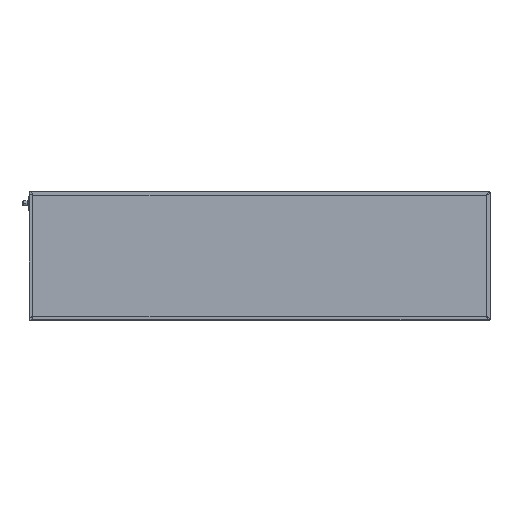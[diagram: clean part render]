
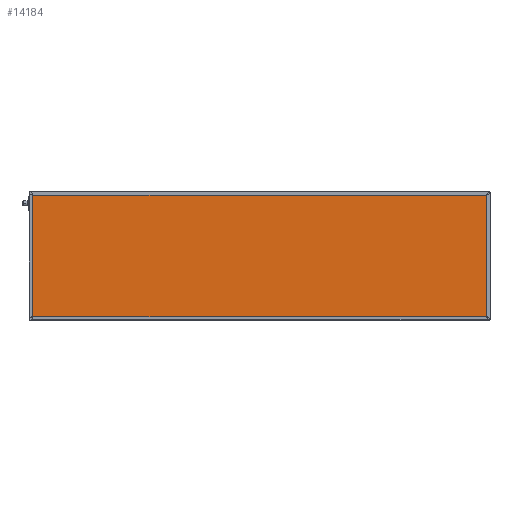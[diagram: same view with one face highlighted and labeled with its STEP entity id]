
A CAD part, top view. The second image highlights one B-rep face of the part: STEP entity #14184.
In plain terms, the highlighted planar face has unit normal (0, 0, 1).
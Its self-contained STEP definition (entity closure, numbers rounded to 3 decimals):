
#169 = VERTEX_POINT ( 'NONE', #16054 ) ;
#479 = VERTEX_POINT ( 'NONE', #7907 ) ;
#870 = ORIENTED_EDGE ( 'NONE', *, *, #12824, .T. ) ;
#1553 = CARTESIAN_POINT ( 'NONE',  ( 1096., 296., 41.85 ) ) ;
#2331 = FACE_OUTER_BOUND ( 'NONE', #2409, .T. ) ;
#2409 = EDGE_LOOP ( 'NONE', ( #10095, #2670, #870, #16397 ) ) ;
#2448 = LINE ( 'NONE', #3587, #5909 ) ;
#2670 = ORIENTED_EDGE ( 'NONE', *, *, #7530, .T. ) ;
#2691 = AXIS2_PLACEMENT_3D ( 'NONE', #11566, #6069, #10163 ) ;
#2969 = DIRECTION ( 'NONE',  ( 0., -1., 0. ) ) ;
#3299 = VECTOR ( 'NONE', #13868, 1000. ) ;
#3587 = CARTESIAN_POINT ( 'NONE',  ( 1096., 0., 41.85 ) ) ;
#3640 = CARTESIAN_POINT ( 'NONE',  ( 0., 296., 41.85 ) ) ;
#3939 = VECTOR ( 'NONE', #15410, 1000. ) ;
#5172 = VECTOR ( 'NONE', #2969, 1000. ) ;
#5909 = VECTOR ( 'NONE', #11427, 1000. ) ;
#6069 = DIRECTION ( 'NONE',  ( 0., 0., -1. ) ) ;
#6556 = CARTESIAN_POINT ( 'NONE',  ( 1096., 4., 41.85 ) ) ;
#7530 = EDGE_CURVE ( 'NONE', #13946, #169, #10085, .T. ) ;
#7907 = CARTESIAN_POINT ( 'NONE',  ( 4., 4., 41.85 ) ) ;
#10085 = LINE ( 'NONE', #3640, #3939 ) ;
#10095 = ORIENTED_EDGE ( 'NONE', *, *, #11569, .T. ) ;
#10163 = DIRECTION ( 'NONE',  ( -1., 0., 0. ) ) ;
#11427 = DIRECTION ( 'NONE',  ( 0., 1., 0. ) ) ;
#11566 = CARTESIAN_POINT ( 'NONE',  ( 0., 0., 41.85 ) ) ;
#11569 = EDGE_CURVE ( 'NONE', #13239, #13946, #2448, .T. ) ;
#12553 = LINE ( 'NONE', #14913, #5172 ) ;
#12704 = PLANE ( 'NONE',  #2691 ) ;
#12824 = EDGE_CURVE ( 'NONE', #169, #479, #12553, .T. ) ;
#13239 = VERTEX_POINT ( 'NONE', #6556 ) ;
#13868 = DIRECTION ( 'NONE',  ( 1., 0., 0. ) ) ;
#13946 = VERTEX_POINT ( 'NONE', #1553 ) ;
#14184 = ADVANCED_FACE ( 'NONE', ( #2331 ), #12704, .F. ) ;
#14840 = LINE ( 'NONE', #15184, #3299 ) ;
#14913 = CARTESIAN_POINT ( 'NONE',  ( 4., 0., 41.85 ) ) ;
#15184 = CARTESIAN_POINT ( 'NONE',  ( 0., 4., 41.85 ) ) ;
#15410 = DIRECTION ( 'NONE',  ( -1., 0., 0. ) ) ;
#16054 = CARTESIAN_POINT ( 'NONE',  ( 4., 296., 41.85 ) ) ;
#16397 = ORIENTED_EDGE ( 'NONE', *, *, #16879, .T. ) ;
#16879 = EDGE_CURVE ( 'NONE', #479, #13239, #14840, .T. ) ;
